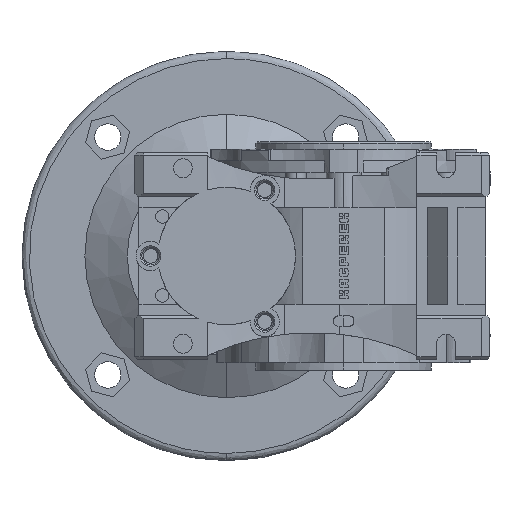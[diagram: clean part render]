
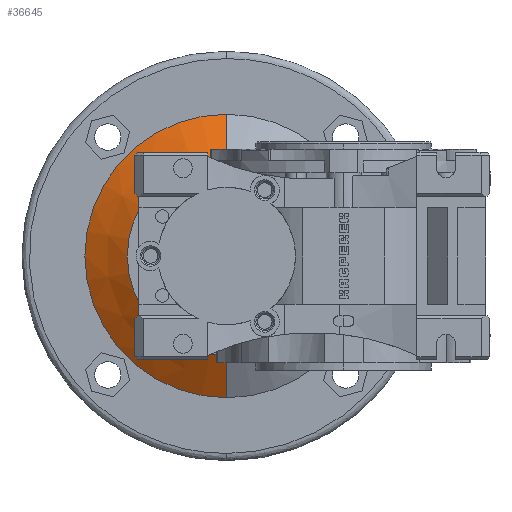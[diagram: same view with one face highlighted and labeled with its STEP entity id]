
A CAD part, left-side view. The second image highlights one B-rep face of the part: STEP entity #36645.
In plain terms, the highlighted conical face has half-angle 58.173 degrees and reference radius 33.966 mm.
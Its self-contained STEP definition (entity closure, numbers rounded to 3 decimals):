
#697 = CONICAL_SURFACE ( 'NONE', #7660, 33.966, 1.015 ) ;
#1473 = CARTESIAN_POINT ( 'NONE',  ( 60., 40., -48.466 ) ) ;
#2400 = AXIS2_PLACEMENT_3D ( 'NONE', #29961, #35630, #32362 ) ;
#4574 = CARTESIAN_POINT ( 'NONE',  ( 51., 40., -33.966 ) ) ;
#5798 = ORIENTED_EDGE ( 'NONE', *, *, #32552, .F. ) ;
#6096 = EDGE_LOOP ( 'NONE', ( #5798, #31732, #42716, #17033 ) ) ;
#7660 = AXIS2_PLACEMENT_3D ( 'NONE', #8358, #53788, #25769 ) ;
#8358 = CARTESIAN_POINT ( 'NONE',  ( 51., 40., 0. ) ) ;
#8614 = LINE ( 'NONE', #41817, #44497 ) ;
#9134 = DIRECTION ( 'NONE',  ( 0.527, 0., 0.85 ) ) ;
#12979 = FACE_OUTER_BOUND ( 'NONE', #6096, .T. ) ;
#16515 = VERTEX_POINT ( 'NONE', #4574 ) ;
#17033 = ORIENTED_EDGE ( 'NONE', *, *, #48765, .F. ) ;
#20143 = EDGE_CURVE ( 'NONE', #51912, #40868, #49674, .T. ) ;
#21146 = DIRECTION ( 'NONE',  ( 0.527, 0., -0.85 ) ) ;
#21389 = CARTESIAN_POINT ( 'NONE',  ( 51., 40., 33.966 ) ) ;
#22510 = CARTESIAN_POINT ( 'NONE',  ( 51., 40., 33.966 ) ) ;
#25218 = DIRECTION ( 'NONE',  ( 1., 0., 0. ) ) ;
#25769 = DIRECTION ( 'NONE',  ( 0., 0., -1. ) ) ;
#27530 = VECTOR ( 'NONE', #9134, 1000. ) ;
#28758 = CARTESIAN_POINT ( 'NONE',  ( 60., 40., 0. ) ) ;
#29401 = VERTEX_POINT ( 'NONE', #1473 ) ;
#29961 = CARTESIAN_POINT ( 'NONE',  ( 51., 40., 0. ) ) ;
#31122 = CIRCLE ( 'NONE', #2400, 33.966 ) ;
#31732 = ORIENTED_EDGE ( 'NONE', *, *, #20143, .T. ) ;
#32362 = DIRECTION ( 'NONE',  ( 0., 0., -1. ) ) ;
#32552 = EDGE_CURVE ( 'NONE', #51912, #16515, #31122, .T. ) ;
#35630 = DIRECTION ( 'NONE',  ( -1., 0., 0. ) ) ;
#36645 = ADVANCED_FACE ( 'NONE', ( #12979 ), #697, .T. ) ;
#38180 = AXIS2_PLACEMENT_3D ( 'NONE', #28758, #25218, #40733 ) ;
#39182 = CARTESIAN_POINT ( 'NONE',  ( 60., 40., 48.466 ) ) ;
#39809 = EDGE_CURVE ( 'NONE', #29401, #40868, #45128, .T. ) ;
#40733 = DIRECTION ( 'NONE',  ( 0., 0., -1. ) ) ;
#40868 = VERTEX_POINT ( 'NONE', #39182 ) ;
#41817 = CARTESIAN_POINT ( 'NONE',  ( 51., 40., -33.966 ) ) ;
#42716 = ORIENTED_EDGE ( 'NONE', *, *, #39809, .F. ) ;
#44497 = VECTOR ( 'NONE', #21146, 1000. ) ;
#45128 = CIRCLE ( 'NONE', #38180, 48.466 ) ;
#48765 = EDGE_CURVE ( 'NONE', #16515, #29401, #8614, .T. ) ;
#49674 = LINE ( 'NONE', #21389, #27530 ) ;
#51912 = VERTEX_POINT ( 'NONE', #22510 ) ;
#53788 = DIRECTION ( 'NONE',  ( 1., 0., 0. ) ) ;
